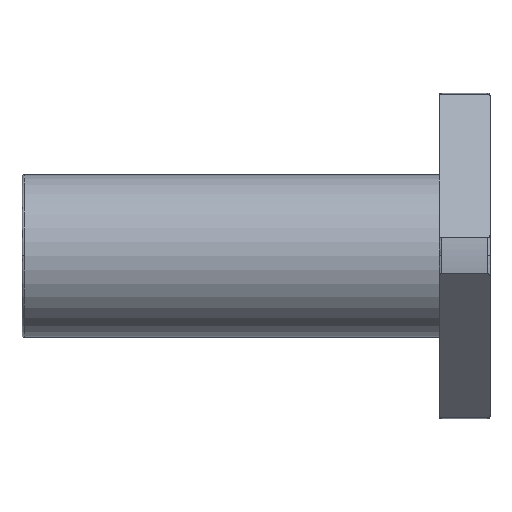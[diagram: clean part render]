
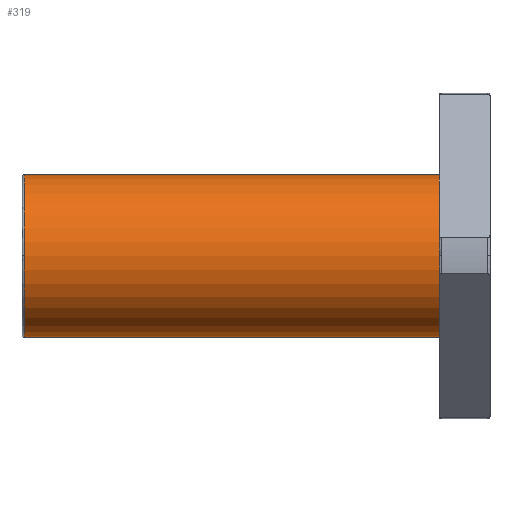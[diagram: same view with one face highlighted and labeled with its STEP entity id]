
A CAD part, top view. The second image highlights one B-rep face of the part: STEP entity #319.
In plain terms, the highlighted cylindrical face has radius 8 mm (diameter 16 mm), a partial arc.
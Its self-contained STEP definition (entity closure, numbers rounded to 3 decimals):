
#319 = ADVANCED_FACE('',(#320),#334,.T.);
#320 = FACE_BOUND('',#321,.T.);
#321 = EDGE_LOOP('',(#322,#357,#386,#415,#438));
#322 = ORIENTED_EDGE('',*,*,#323,.F.);
#323 = EDGE_CURVE('',#324,#326,#328,.T.);
#324 = VERTEX_POINT('',#325);
#325 = CARTESIAN_POINT('',(-45.8,8.,0.));
#326 = VERTEX_POINT('',#327);
#327 = CARTESIAN_POINT('',(-5.,8.,0.));
#328 = SURFACE_CURVE('',#329,(#333,#345),.PCURVE_S1.);
#329 = LINE('',#330,#331);
#330 = CARTESIAN_POINT('',(-25.4,8.,0.));
#331 = VECTOR('',#332,1.);
#332 = DIRECTION('',(1.,0.,0.));
#333 = PCURVE('',#334,#339);
#334 = CYLINDRICAL_SURFACE('',#335,8.);
#335 = AXIS2_PLACEMENT_3D('',#336,#337,#338);
#336 = CARTESIAN_POINT('',(-25.4,0.,0.));
#337 = DIRECTION('',(1.,0.,0.));
#338 = DIRECTION('',(-0.,1.,0.));
#339 = DEFINITIONAL_REPRESENTATION('',(#340),#344);
#340 = LINE('',#341,#342);
#341 = CARTESIAN_POINT('',(0.,0.));
#342 = VECTOR('',#343,1.);
#343 = DIRECTION('',(0.,1.));
#344 = ( GEOMETRIC_REPRESENTATION_CONTEXT(2) 
PARAMETRIC_REPRESENTATION_CONTEXT() REPRESENTATION_CONTEXT('2D SPACE',''
  ) );
#345 = PCURVE('',#346,#351);
#346 = CYLINDRICAL_SURFACE('',#347,8.);
#347 = AXIS2_PLACEMENT_3D('',#348,#349,#350);
#348 = CARTESIAN_POINT('',(-25.4,0.,0.));
#349 = DIRECTION('',(1.,0.,0.));
#350 = DIRECTION('',(-0.,1.,0.));
#351 = DEFINITIONAL_REPRESENTATION('',(#352),#356);
#352 = LINE('',#353,#354);
#353 = CARTESIAN_POINT('',(6.283,0.));
#354 = VECTOR('',#355,1.);
#355 = DIRECTION('',(0.,1.));
#356 = ( GEOMETRIC_REPRESENTATION_CONTEXT(2) 
PARAMETRIC_REPRESENTATION_CONTEXT() REPRESENTATION_CONTEXT('2D SPACE',''
  ) );
#357 = ORIENTED_EDGE('',*,*,#358,.T.);
#358 = EDGE_CURVE('',#324,#359,#361,.T.);
#359 = VERTEX_POINT('',#360);
#360 = CARTESIAN_POINT('',(-45.8,0.,8.));
#361 = SURFACE_CURVE('',#362,(#367,#374),.PCURVE_S1.);
#362 = CIRCLE('',#363,8.);
#363 = AXIS2_PLACEMENT_3D('',#364,#365,#366);
#364 = CARTESIAN_POINT('',(-45.8,0.,0.));
#365 = DIRECTION('',(1.,0.,0.));
#366 = DIRECTION('',(-0.,1.,0.));
#367 = PCURVE('',#334,#368);
#368 = DEFINITIONAL_REPRESENTATION('',(#369),#373);
#369 = LINE('',#370,#371);
#370 = CARTESIAN_POINT('',(0.,-20.4));
#371 = VECTOR('',#372,1.);
#372 = DIRECTION('',(1.,0.));
#373 = ( GEOMETRIC_REPRESENTATION_CONTEXT(2) 
PARAMETRIC_REPRESENTATION_CONTEXT() REPRESENTATION_CONTEXT('2D SPACE',''
  ) );
#374 = PCURVE('',#375,#380);
#375 = TOROIDAL_SURFACE('',#376,7.8,0.2);
#376 = AXIS2_PLACEMENT_3D('',#377,#378,#379);
#377 = CARTESIAN_POINT('',(-45.8,0.,0.));
#378 = DIRECTION('',(1.,0.,0.));
#379 = DIRECTION('',(0.,0.,-1.));
#380 = DEFINITIONAL_REPRESENTATION('',(#381),#385);
#381 = LINE('',#382,#383);
#382 = CARTESIAN_POINT('',(1.571,6.283));
#383 = VECTOR('',#384,1.);
#384 = DIRECTION('',(1.,0.));
#385 = ( GEOMETRIC_REPRESENTATION_CONTEXT(2) 
PARAMETRIC_REPRESENTATION_CONTEXT() REPRESENTATION_CONTEXT('2D SPACE',''
  ) );
#386 = ORIENTED_EDGE('',*,*,#387,.T.);
#387 = EDGE_CURVE('',#359,#388,#390,.T.);
#388 = VERTEX_POINT('',#389);
#389 = CARTESIAN_POINT('',(-45.8,-8.,0.));
#390 = SURFACE_CURVE('',#391,(#396,#403),.PCURVE_S1.);
#391 = CIRCLE('',#392,8.);
#392 = AXIS2_PLACEMENT_3D('',#393,#394,#395);
#393 = CARTESIAN_POINT('',(-45.8,0.,0.));
#394 = DIRECTION('',(1.,0.,0.));
#395 = DIRECTION('',(-0.,1.,0.));
#396 = PCURVE('',#334,#397);
#397 = DEFINITIONAL_REPRESENTATION('',(#398),#402);
#398 = LINE('',#399,#400);
#399 = CARTESIAN_POINT('',(0.,-20.4));
#400 = VECTOR('',#401,1.);
#401 = DIRECTION('',(1.,0.));
#402 = ( GEOMETRIC_REPRESENTATION_CONTEXT(2) 
PARAMETRIC_REPRESENTATION_CONTEXT() REPRESENTATION_CONTEXT('2D SPACE',''
  ) );
#403 = PCURVE('',#404,#409);
#404 = TOROIDAL_SURFACE('',#405,7.8,0.2);
#405 = AXIS2_PLACEMENT_3D('',#406,#407,#408);
#406 = CARTESIAN_POINT('',(-45.8,0.,0.));
#407 = DIRECTION('',(1.,0.,0.));
#408 = DIRECTION('',(0.,0.,-1.));
#409 = DEFINITIONAL_REPRESENTATION('',(#410),#414);
#410 = LINE('',#411,#412);
#411 = CARTESIAN_POINT('',(1.571,6.283));
#412 = VECTOR('',#413,1.);
#413 = DIRECTION('',(1.,0.));
#414 = ( GEOMETRIC_REPRESENTATION_CONTEXT(2) 
PARAMETRIC_REPRESENTATION_CONTEXT() REPRESENTATION_CONTEXT('2D SPACE',''
  ) );
#415 = ORIENTED_EDGE('',*,*,#416,.F.);
#416 = EDGE_CURVE('',#417,#388,#419,.T.);
#417 = VERTEX_POINT('',#418);
#418 = CARTESIAN_POINT('',(-5.,-8.,0.));
#419 = SURFACE_CURVE('',#420,(#424,#431),.PCURVE_S1.);
#420 = LINE('',#421,#422);
#421 = CARTESIAN_POINT('',(-25.4,-8.,0.));
#422 = VECTOR('',#423,1.);
#423 = DIRECTION('',(-1.,-0.,-0.));
#424 = PCURVE('',#334,#425);
#425 = DEFINITIONAL_REPRESENTATION('',(#426),#430);
#426 = LINE('',#427,#428);
#427 = CARTESIAN_POINT('',(3.142,0.));
#428 = VECTOR('',#429,1.);
#429 = DIRECTION('',(0.,-1.));
#430 = ( GEOMETRIC_REPRESENTATION_CONTEXT(2) 
PARAMETRIC_REPRESENTATION_CONTEXT() REPRESENTATION_CONTEXT('2D SPACE',''
  ) );
#431 = PCURVE('',#346,#432);
#432 = DEFINITIONAL_REPRESENTATION('',(#433),#437);
#433 = LINE('',#434,#435);
#434 = CARTESIAN_POINT('',(3.142,0.));
#435 = VECTOR('',#436,1.);
#436 = DIRECTION('',(0.,-1.));
#437 = ( GEOMETRIC_REPRESENTATION_CONTEXT(2) 
PARAMETRIC_REPRESENTATION_CONTEXT() REPRESENTATION_CONTEXT('2D SPACE',''
  ) );
#438 = ORIENTED_EDGE('',*,*,#439,.F.);
#439 = EDGE_CURVE('',#326,#417,#440,.T.);
#440 = SURFACE_CURVE('',#441,(#446,#453),.PCURVE_S1.);
#441 = CIRCLE('',#442,8.);
#442 = AXIS2_PLACEMENT_3D('',#443,#444,#445);
#443 = CARTESIAN_POINT('',(-5.,0.,0.));
#444 = DIRECTION('',(1.,0.,0.));
#445 = DIRECTION('',(-0.,1.,0.));
#446 = PCURVE('',#334,#447);
#447 = DEFINITIONAL_REPRESENTATION('',(#448),#452);
#448 = LINE('',#449,#450);
#449 = CARTESIAN_POINT('',(0.,20.4));
#450 = VECTOR('',#451,1.);
#451 = DIRECTION('',(1.,0.));
#452 = ( GEOMETRIC_REPRESENTATION_CONTEXT(2) 
PARAMETRIC_REPRESENTATION_CONTEXT() REPRESENTATION_CONTEXT('2D SPACE',''
  ) );
#453 = PCURVE('',#454,#459);
#454 = PLANE('',#455);
#455 = AXIS2_PLACEMENT_3D('',#456,#457,#458);
#456 = CARTESIAN_POINT('',(-5.,11.9,0.));
#457 = DIRECTION('',(-1.,0.,0.));
#458 = DIRECTION('',(0.,-1.,0.));
#459 = DEFINITIONAL_REPRESENTATION('',(#460),#468);
#460 = ( BOUNDED_CURVE() B_SPLINE_CURVE(2,(#461,#462,#463,#464,#465,#466
,#467),.UNSPECIFIED.,.T.,.F.) B_SPLINE_CURVE_WITH_KNOTS((1,2,2,2,2,1),(
    -2.094,0.,2.094,4.189,6.283,
8.378),.UNSPECIFIED.) CURVE() GEOMETRIC_REPRESENTATION_ITEM() 
RATIONAL_B_SPLINE_CURVE((1.,0.5,1.,0.5,1.,0.5,1.)) REPRESENTATION_ITEM(
  '') );
#461 = CARTESIAN_POINT('',(3.9,0.));
#462 = CARTESIAN_POINT('',(3.9,13.856));
#463 = CARTESIAN_POINT('',(15.9,6.928));
#464 = CARTESIAN_POINT('',(27.9,0.));
#465 = CARTESIAN_POINT('',(15.9,-6.928));
#466 = CARTESIAN_POINT('',(3.9,-13.856));
#467 = CARTESIAN_POINT('',(3.9,0.));
#468 = ( GEOMETRIC_REPRESENTATION_CONTEXT(2) 
PARAMETRIC_REPRESENTATION_CONTEXT() REPRESENTATION_CONTEXT('2D SPACE',''
  ) );
